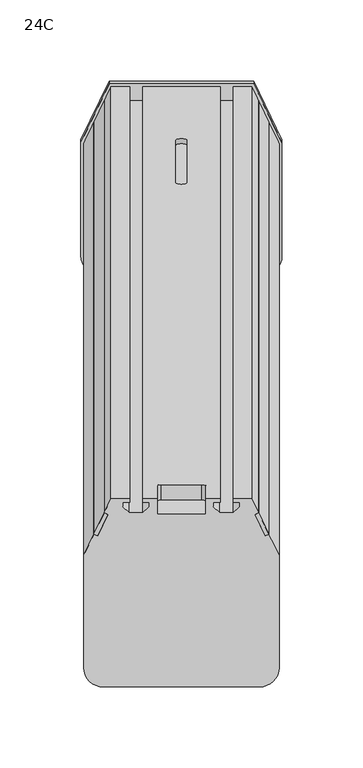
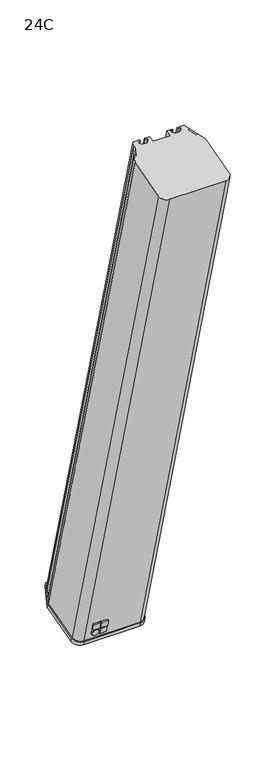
"""IFC4 building model written with IfcOpenShell, lengths in millimetres: proxy geometry, d&b xC-Series 24C Column : 24C."""

import ifcopenshell
import ifcopenshell.guid

model = None  # the IFC model being written
_history = None  # IfcOwnerHistory: only IFC2X3 demands one
_inside = {}  # id of a spatial element -> (the spatial element, [elements in it])
_under = {}  # id of a project, library or spatial element -> (it, [spatial elements below it])
_declared = {}  # id of a project -> (the project, [libraries it declares])
_typed = {}  # id of a type object -> (the type object, [elements of that type])
_made_of = {}  # id of a material, layer set ... -> (it, [elements and type objects made of it])


def new_model(schema):
    """Start an empty IFC model of exactly this schema.

    Asked for "IFC4X3", IfcOpenShell would pick the latest addendum, in which some entities
    have other attributes; the version numbers below select the first issue.
    IFC2X3 requires an IfcOwnerHistory on every rooted entity: one is made here for all.
    """
    global model, _history
    if schema == "IFC4X3":
        model = ifcopenshell.file(schema_version=(4, 3, 0, 0))
    else:
        model = ifcopenshell.file(schema=schema)
    _inside.clear()
    _under.clear()
    _declared.clear()
    _typed.clear()
    _made_of.clear()
    _history = None
    if model.schema == "IFC2X3":
        org = make("IfcOrganization", Name="unknown")
        user = make(
            "IfcPersonAndOrganization",
            ThePerson=make("IfcPerson", FamilyName="unknown"),
            TheOrganization=org,
        )
        app = make(
            "IfcApplication",
            ApplicationDeveloper=org,
            Version="unknown",
            ApplicationFullName="unknown",
            ApplicationIdentifier="unknown",
        )
        _history = make(
            "IfcOwnerHistory",
            OwningUser=user,
            OwningApplication=app,
            ChangeAction="ADDED",
            CreationDate=0,
        )
    return model


def make(cls, **values):
    """One entity of the class cls with the attributes given. An attribute that is None is left unset."""
    return model.create_entity(
        cls, **{name: value for name, value in values.items() if value is not None}
    )


def rooted(cls, **values):
    """An entity with a GlobalId (a new one), such as an element, a storey or a relation."""
    return make(cls, GlobalId=ifcopenshell.guid.new(), OwnerHistory=_history, **values)


def si_unit(unit_type, name, prefix=None):
    """IfcSIUnit, for example si_unit("LENGTHUNIT", "METRE", prefix="MILLI")."""
    return make("IfcSIUnit", UnitType=unit_type, Prefix=prefix, Name=name)


def assignment(units):
    """IfcUnitAssignment: the units of a project."""
    return None if units is None else make("IfcUnitAssignment", Units=units)


def point(xyz):
    """IfcCartesianPoint."""
    return None if xyz is None else make("IfcCartesianPoint", Coordinates=xyz)


def direction(xyz):
    """IfcDirection."""
    return None if xyz is None else make("IfcDirection", DirectionRatios=xyz)


def frame(location, z_axis=None, x_axis=None):
    """IfcAxis2Placement3D, a coordinate frame: its origin and axes. An axis left out is left unset."""
    return make(
        "IfcAxis2Placement3D",
        Location=point(location),
        Axis=direction(z_axis),
        RefDirection=direction(x_axis),
    )


def frame_2d(location, x_axis=None):
    """IfcAxis2Placement2D, a coordinate frame in the plane: its origin and x axis."""
    return make(
        "IfcAxis2Placement2D", Location=point(location), RefDirection=direction(x_axis)
    )


def origin():
    """The frame at (0, 0, 0) with its axes left unset."""
    return frame((0.0, 0.0, 0.0))


def place(relative_to, where):
    """IfcLocalPlacement: puts the frame where relative to a parent placement (None: the world)."""
    return make(
        "IfcLocalPlacement", PlacementRelTo=relative_to, RelativePlacement=where
    )


def context(
    kind, dimensions, precision=None, world=None, true_north=None, identifier=None
):
    """IfcGeometricRepresentationContext, for example the 3D "Model" context."""
    return make(
        "IfcGeometricRepresentationContext",
        ContextIdentifier=identifier,
        ContextType=kind,
        CoordinateSpaceDimension=dimensions,
        Precision=precision,
        WorldCoordinateSystem=world,
        TrueNorth=true_north,
    )


def project(units=None, contexts=None):
    """IfcProject with its units and contexts."""
    return rooted(
        "IfcProject",
        Name="project",
        RepresentationContexts=contexts,
        UnitsInContext=assignment(units),
    )


def spatial(cls, under=None, at=None, **own):
    """A site, building, storey or space (cls), placed at a placement, below another one or the project."""
    s = rooted(cls, ObjectPlacement=at, **own)
    if under is not None:
        _under.setdefault(under.id(), (under, []))[1].append(s)
    return s


def polyline(points):
    """IfcPolyline through the points."""
    return make("IfcPolyline", Points=[point(p) for p in points])


def circle_curve(where, radius):
    """IfcCircle in the frame where."""
    return make("IfcCircle", Position=where, Radius=radius)


def trimmed(basis, trim1, trim2, sense, master):
    """IfcTrimmedCurve: the piece of a basis curve between two trims."""
    return make(
        "IfcTrimmedCurve",
        BasisCurve=basis,
        Trim1=trim1,
        Trim2=trim2,
        SenseAgreement=sense,
        MasterRepresentation=master,
    )


def segment(curve, same_sense, transition):
    """IfcCompositeCurveSegment."""
    return make(
        "IfcCompositeCurveSegment",
        Transition=transition,
        SameSense=same_sense,
        ParentCurve=curve,
    )


def composite_curve(segments, self_intersect=None):
    """IfcCompositeCurve: segments joined end to end."""
    return make("IfcCompositeCurve", Segments=segments, SelfIntersect=self_intersect)


def outline(outer, holes=None, kind="AREA"):
    """IfcArbitraryClosedProfileDef: a profile drawn as a closed curve; with holes, ...WithVoids."""
    if holes is None:
        return make("IfcArbitraryClosedProfileDef", ProfileType=kind, OuterCurve=outer)
    return make(
        "IfcArbitraryProfileDefWithVoids",
        ProfileType=kind,
        OuterCurve=outer,
        InnerCurves=holes,
    )


def extrude(swept, where, along, depth):
    """IfcExtrudedAreaSolid: the profile swept, set in the frame where, extruded along a direction by depth."""
    return make(
        "IfcExtrudedAreaSolid",
        SweptArea=swept,
        Position=where,
        ExtrudedDirection=direction(along),
        Depth=depth,
    )


def shape(context_of_items, identifier, shape_type, items):
    """IfcShapeRepresentation: the items that make up one representation, for example the "Body"."""
    return make(
        "IfcShapeRepresentation",
        ContextOfItems=context_of_items,
        RepresentationIdentifier=identifier,
        RepresentationType=shape_type,
        Items=items,
    )


def source(mapping_origin, context_of_items, identifier, shape_type, items):
    """IfcRepresentationMap: a shape defined once, which mapped items show again and again."""
    return make(
        "IfcRepresentationMap",
        MappingOrigin=mapping_origin,
        MappedRepresentation=shape(context_of_items, identifier, shape_type, items),
    )


def transform(
    local_origin,
    x_axis=None,
    y_axis=None,
    z_axis=None,
    scale=None,
    scale2=None,
    scale3=None,
    uniform=True,
):
    """IfcCartesianTransformationOperator3D, or its non-uniform kind. x_axis, y_axis, z_axis: its Axis1, 2, 3."""
    if uniform:
        return make(
            "IfcCartesianTransformationOperator3D",
            Axis1=direction(x_axis),
            Axis2=direction(y_axis),
            LocalOrigin=point(local_origin),
            Scale=scale,
            Axis3=direction(z_axis),
        )
    return make(
        "IfcCartesianTransformationOperator3DnonUniform",
        Axis1=direction(x_axis),
        Axis2=direction(y_axis),
        LocalOrigin=point(local_origin),
        Scale=scale,
        Axis3=direction(z_axis),
        Scale2=scale2,
        Scale3=scale3,
    )


def mapped(mapping_source, mapping_target):
    """IfcMappedItem: shows the shape of a source again, moved by a transform."""
    return make(
        "IfcMappedItem", MappingSource=mapping_source, MappingTarget=mapping_target
    )


def made_of(thing, what):
    """Note that an element or type object is made of a material, layer set ...; save() writes the relation."""
    if what is not None:
        _made_of.setdefault(what.id(), (what, []))[1].append(thing)
    return thing


def element(
    cls,
    number,
    at=None,
    inside=None,
    cuts=None,
    type_object=None,
    material=None,
    context=None,
    identifier="Body",
    shape_type=None,
    held_by="IfcProductDefinitionShape",
    body=None,
    shapes=None,
    **own,
):
    """One element of the class cls, such as IfcWall. Its Tag is "e" and its number.

    at: its placement. inside: the storey or other place that contains it. cuts: it is an
    opening in that element (IfcRelVoidsElement). A single representation is given by context,
    identifier, shape_type and body (its items); several are given by shapes. held_by: the class
    of the entity that holds the representations. save() writes the other relations.
    """
    e = rooted(cls, Tag="e%d" % number, ObjectPlacement=at, **own)
    if body is not None:
        shapes = [shape(context, identifier, shape_type, body)]
    if shapes is not None:
        e.Representation = make(held_by, Representations=shapes)
    if inside is not None:
        _inside.setdefault(inside.id(), (inside, []))[1].append(e)
    if cuts is not None:
        rooted(
            "IfcRelVoidsElement", RelatingBuildingElement=cuts, RelatedOpeningElement=e
        )
    if type_object is not None:
        _typed.setdefault(type_object.id(), (type_object, []))[1].append(e)
    return made_of(e, material)


def aggregate(whole, parts):
    """IfcRelAggregates: a whole, such as a stair, and the parts it consists of."""
    return rooted("IfcRelAggregates", RelatingObject=whole, RelatedObjects=parts)


def save(model, path):
    """Write the relations noted so far, then the file.

    IfcRelAggregates (storeys below a building ...), IfcRelContainedInSpatialStructure (elements
    in a storey), IfcRelDefinesByType, IfcRelAssociatesMaterial and IfcRelDeclares: one each for
    every whole, place, type object, material and project.
    """
    for whole, parts in _under.values():
        aggregate(whole, parts)
    for where, things in _inside.values():
        rooted(
            "IfcRelContainedInSpatialStructure",
            RelatedElements=things,
            RelatingStructure=where,
        )
    for kind, things in _typed.values():
        rooted("IfcRelDefinesByType", RelatedObjects=things, RelatingType=kind)
    for what, things in _made_of.values():
        rooted("IfcRelAssociatesMaterial", RelatedObjects=things, RelatingMaterial=what)
    for by, libraries in _declared.values():
        rooted("IfcRelDeclares", RelatingContext=by, RelatedDefinitions=libraries)
    model.write(path)


def plane_surface(at):
    """IfcPlane: the flat surface through the origin of the frame at, square to its z axis."""
    return make("IfcPlane", Position=at)


def cylinder_surface(at, radius):
    """IfcCylindricalSurface: all points at the distance radius from the z axis of the frame at."""
    return make("IfcCylindricalSurface", Position=at, Radius=radius)


def revolved_surface(curve, axis_point, axis_direction):
    """IfcSurfaceOfRevolution: the curve turned about the line through axis_point along axis_direction."""
    return make(
        "IfcSurfaceOfRevolution",
        SweptCurve=make("IfcArbitraryOpenProfileDef", ProfileType="CURVE", Curve=curve),
        AxisPosition=make("IfcAxis1Placement", Location=point(axis_point), Axis=direction(axis_direction)),
    )


def advanced_brep(points, edges, surfaces, faces):
    """IfcAdvancedBrep: a solid bounded by faces that lie on surfaces and meet in shared edges.

    An edge is (start, end): straight between two places in points (the first is 0);
    or (start, end, curve); or (start, end, curve, False) where it runs against its curve.
    A face is (place in surfaces, loops), or (place, loops, False) where it looks against
    its surface's normal. A loop lists edges by number (the first is 1), with a minus sign
    where the edge is run from its end to its start. The first loop is the outer one.
    """
    corners = [point(p) for p in points]
    vertices = [make("IfcVertexPoint", VertexGeometry=c) for c in corners]
    made = []
    for start, end, *more in edges:
        made.append(
            make(
                "IfcEdgeCurve",
                EdgeStart=vertices[start],
                EdgeEnd=vertices[end],
                EdgeGeometry=more[0] if more else make("IfcPolyline", Points=[corners[start], corners[end]]),
                SameSense=more[1] if len(more) > 1 else True,
            )
        )
    hull = []
    for where, loops, *sense in faces:
        bounds = []
        for j, loop in enumerate(loops):
            ring = [make("IfcOrientedEdge", EdgeElement=made[abs(k) - 1], Orientation=k > 0) for k in loop]
            bounds.append(
                make(
                    "IfcFaceOuterBound" if j == 0 else "IfcFaceBound",
                    Bound=make("IfcEdgeLoop", EdgeList=ring),
                    Orientation=True,
                )
            )
        hull.append(make("IfcAdvancedFace", Bounds=bounds, FaceSurface=surfaces[where], SameSense=sense[0] if sense else True))
    return make("IfcAdvancedBrep", Outer=make("IfcClosedShell", CfsFaces=hull))


def proxy_24c_25db1443(model_context):
    return source(origin(), model_context, "Body", "SolidModel", [
        extrude(outline(polyline([(-2.6999999, 0.0), (-2.6999999, -2.4999999), (-17.6861683, -2.5), (-17.6861684, 0.0), (-2.6999999, 0.0)])), frame((44.4204589, 178.383665, -462.593398), z_axis=(0.0, -0.2588190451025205, 0.9659258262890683), x_axis=(-0.4226182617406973, 0.8754260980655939, 0.23456971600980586)), (0.0, 0.0, 1.0), 986.0),
        extrude(outline(polyline([(35.8102678, 82.5855356), (26.1773443, 94.0656066), (28.0924555, 95.6725756), (37.7253788, 84.1925046), (35.8102678, 82.5855356)])), frame((44.4204589, 178.383665, -462.593398), z_axis=(0.0, -0.2588190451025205, 0.9659258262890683), x_axis=(-0.4226182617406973, 0.8754260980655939, 0.23456971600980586)), (0.0, 0.0, 1.0), 986.0),
        advanced_brep(
        [(-32.05, -69.4007582, 491.7952798), (-43.601115, -69.4007582, 491.7952798), (-47.8272976, -78.1550192, 489.4495827), (-45.5615282, -79.1755639, 489.1761285), (-51.8949566, -92.2948468, 485.6608273), (-54.1607261, -91.2743021, 485.9342814), (-60.5, -104.4056936, 482.4157357), (-60.5, -173.9256513, 463.7879191), (-48.212132, -185.7948203, 460.6075849), (48.212132, -185.7948203, 460.6075849), (60.5, -173.9256513, 463.7879191), (60.5, -104.4056936, 482.4157357), (54.1607261, -91.2743021, 485.9342814), (51.8949566, -92.2948468, 485.6608273), (45.5615282, -79.1755639, 489.1761285), (47.8272976, -78.1550192, 489.4495827), (43.601115, -69.4007582, 491.7952798), (32.05, -69.4007582, 491.7952798), (32.05, -71.5257958, 491.2258777), (36.2500003, -71.5257958, 491.2258777), (36.2500003, -74.1864047, 490.5129697), (32.2044662, -78.0940906, 489.4659084), (23.7999989, -78.0940906, 489.4659084), (19.7499997, -74.1820918, 490.5141254), (19.7499997, -71.5257958, 491.2258777), (23.95, -71.5257958, 491.2258777), (23.95, -69.4007582, 491.7952798), (15.0, -69.4007582, 491.7952798), (15.0, -79.0600165, 489.2070894), (-15.0, -79.0600165, 489.2070894), (-15.0, -69.4007582, 491.7952798), (-23.95, -69.4007582, 491.7952798), (-23.95, -71.5257958, 491.2258777), (-19.7499997, -71.5257958, 491.2258777), (-19.7499997, -74.1820918, 490.5141254), (-23.7999989, -78.0940906, 489.4659084), (-32.2044662, -78.0940906, 489.4659084), (-36.2500003, -74.1864047, 490.5129697), (-36.2500003, -71.5257958, 491.2258777), (-32.05, -71.5257958, 491.2258777), (-32.05, 185.7948203, -460.6075849), (-32.05, 183.6697827, -461.176987), (-36.2500003, 183.6697827, -461.176987), (-36.2500003, 181.0091737, -461.889895), (-32.2044662, 177.1014878, -462.9369563), (-23.7999989, 177.1014878, -462.9369563), (-19.7499997, 181.0134867, -461.8887394), (-19.7499997, 183.6697827, -461.176987), (-23.95, 183.6697827, -461.176987), (-23.95, 185.7948203, -460.6075849), (23.95, 185.7948203, -460.6075849), (23.95, 183.6697827, -461.176987), (19.7499997, 183.6697827, -461.176987), (19.7499997, 181.0134867, -461.8887394), (23.7999989, 177.1014878, -462.9369563), (32.2044662, 177.1014878, -462.9369563), (36.2500003, 181.0091737, -461.889895), (36.2500003, 183.6697827, -461.176987), (32.05, 183.6697827, -461.176987), (32.05, 185.7948203, -460.6075849), (43.601115, 185.7948203, -460.6075849), (47.8272976, 177.0405593, -462.9532821), (45.5615282, 176.0200146, -463.2267362), (51.8949566, 162.9007316, -466.7420375), (54.1607261, 163.9212764, -466.4685833), (60.5, 150.7898849, -469.9871291), (60.5, 81.2699272, -488.6149456), (48.212132, 69.4007582, -491.7952798), (-48.212132, 69.4007582, -491.7952798), (-60.5, 81.2699272, -488.6149456), (-60.5, 150.7898849, -469.9871291), (-54.1607261, 163.9212764, -466.4685833), (-51.8949566, 162.9007316, -466.7420375), (-45.5615282, 176.0200146, -463.2267362), (-47.8272976, 177.0405593, -462.9532821), (-43.601115, 185.7948203, -460.6075849), (-15.0, -61.2479583, 461.3686163), (-12.5, -60.6009107, 458.9538017), (12.5, -60.6009107, 458.9538017), (15.0, -61.2479583, 461.3686163), (-3.375, 126.3958494, -238.9276078), (-3.375, 152.6659825, -336.9690791), (3.375, 152.6659825, -336.9690791), (3.375, 126.3958494, -238.9276078), (15.0, -70.9072165, 458.7804258), (12.5, -70.2601689, 456.3656113), (-12.5, -70.2601689, 456.3656113), (-15.0, -70.9072165, 458.7804258), (-3.375, 149.5267236, -337.810241), (-3.375, 123.2565905, -239.7687697), (3.375, 123.2565905, -239.7687697), (3.375, 149.5267236, -337.810241)],
        [
            (0, 1),
            (1, 2),
            (2, 3),
            (3, 4),
            (4, 5),
            (5, 6),
            (6, 7),
            (7, 8, circle_curve(frame((-48.212132, -173.9256513, 463.7879191), z_axis=(0.0, -0.2588190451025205, 0.9659258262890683), x_axis=(-1.0, 0.0, 0.0)), 12.287868)),
            (8, 9),
            (9, 10, circle_curve(frame((48.212132, -173.9256513, 463.7879191), z_axis=(0.0, -0.2588190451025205, 0.9659258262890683), x_axis=(-1.0, 0.0, 0.0)), 12.287868)),
            (10, 11),
            (11, 12),
            (12, 13),
            (13, 14),
            (14, 15),
            (15, 16),
            (16, 17),
            (17, 18),
            (18, 19),
            (19, 20),
            (20, 21),
            (21, 22),
            (22, 23),
            (23, 24),
            (24, 25),
            (25, 26),
            (26, 27),
            (27, 28),
            (28, 29),
            (29, 30),
            (30, 31),
            (31, 32),
            (32, 33),
            (33, 34),
            (34, 35),
            (35, 36),
            (36, 37),
            (37, 38),
            (38, 39),
            (39, 0),
            (40, 41),
            (41, 42),
            (42, 43),
            (43, 44),
            (44, 45),
            (45, 46),
            (46, 47),
            (47, 48),
            (48, 49),
            (49, 50),
            (50, 51),
            (51, 52),
            (52, 53),
            (53, 54),
            (54, 55),
            (55, 56),
            (56, 57),
            (57, 58),
            (58, 59),
            (59, 60),
            (60, 61),
            (61, 62),
            (62, 63),
            (63, 64),
            (64, 65),
            (65, 66),
            (66, 67, circle_curve(frame((48.212132, 81.2699272, -488.6149456), z_axis=(0.0, 0.2588190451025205, -0.9659258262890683), x_axis=(-1.0, 0.0, 0.0)), 12.287868)),
            (67, 68),
            (68, 69, circle_curve(frame((-48.212132, 81.2699272, -488.6149456), z_axis=(0.0, 0.2588190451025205, -0.9659258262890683), x_axis=(-1.0, 0.0, 0.0)), 12.287868)),
            (69, 70),
            (70, 71),
            (71, 72),
            (72, 73),
            (73, 74),
            (74, 75),
            (75, 40),
            (0, 40),
            (75, 1),
            (6, 70),
            (69, 7),
            (68, 8),
            (67, 9),
            (66, 10),
            (65, 11),
            (64, 12),
            (16, 60),
            (59, 17),
            (58, 18),
            (57, 19),
            (56, 20),
            (55, 21),
            (54, 22),
            (53, 23),
            (52, 24),
            (51, 25),
            (50, 26),
            (49, 31),
            (30, 76),
            (76, 77, circle_curve(frame((-12.5, -61.2479583, 461.3686163), z_axis=(0.0, -0.9659258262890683, -0.2588190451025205), x_axis=(-1.0, 0.0, 0.0)), 2.5)),
            (77, 78),
            (78, 79, circle_curve(frame((12.5, -61.2479583, 461.3686163), z_axis=(0.0, -0.9659258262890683, -0.2588190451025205), x_axis=(-1.0, 0.0, 0.0)), 2.5)),
            (79, 27),
            (80, 81),
            (81, 82, circle_curve(frame((0.0, 152.6659825, -336.9690791), z_axis=(0.0, -0.9659258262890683, -0.2588190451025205), x_axis=(-1.0, 0.0, 0.0)), 3.375)),
            (82, 83),
            (83, 80, circle_curve(frame((0.0, 126.3958494, -238.9276078), z_axis=(0.0, -0.9659258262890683, -0.2588190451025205), x_axis=(-1.0, 0.0, 0.0)), 3.375)),
            (48, 32),
            (47, 33),
            (46, 34),
            (45, 35),
            (44, 36),
            (43, 37),
            (42, 38),
            (41, 39),
            (84, 85, circle_curve(frame((12.5, -70.9072165, 458.7804258), z_axis=(0.0, 0.9659258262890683, 0.2588190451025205), x_axis=(-1.0, 0.0, 0.0)), 2.5)),
            (85, 86),
            (86, 87, circle_curve(frame((-12.5, -70.9072165, 458.7804258), z_axis=(0.0, 0.9659258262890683, 0.2588190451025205), x_axis=(-1.0, 0.0, 0.0)), 2.5)),
            (87, 29),
            (28, 84),
            (84, 79),
            (78, 85),
            (77, 86),
            (76, 87),
            (88, 89),
            (89, 90, circle_curve(frame((0.0, 123.2565905, -239.7687697), z_axis=(0.0, 0.9659258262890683, 0.2588190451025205), x_axis=(-1.0, 0.0, 0.0)), 3.375)),
            (90, 91),
            (91, 88, circle_curve(frame((0.0, 149.5267236, -337.810241), z_axis=(0.0, 0.9659258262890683, 0.2588190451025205), x_axis=(-1.0, 0.0, 0.0)), 3.375)),
            (88, 81),
            (80, 89),
            (83, 90),
            (82, 91),
            (63, 13),
            (62, 14),
            (61, 15),
            (74, 2),
            (73, 3),
            (72, 4),
            (71, 5),
        ],
        [
            plane_surface(frame((-42.0084394, -69.4007582, 491.7952798), z_axis=(0.0, -0.2588190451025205, 0.9659258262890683), x_axis=(-1.0, 0.0, 0.0))),
            plane_surface(frame((-42.0084394, 185.7948203, -460.6075849), z_axis=(0.0, 0.2588190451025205, -0.9659258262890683), x_axis=(1.0, 0.0, 0.0))),
            plane_surface(frame((-32.05, -69.4007582, 491.7952798), z_axis=(0.0, 0.9659258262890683, 0.2588190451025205), x_axis=(0.0, 0.2588190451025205, -0.9659258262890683))),
            plane_surface(frame((-60.5, -104.4056936, 482.4157357), z_axis=(-1.0, 0.0, 0.0), x_axis=(0.0, 0.2588190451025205, -0.9659258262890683))),
            cylinder_surface(frame((-48.212132, 81.2699272, -488.6149456), z_axis=(0.0, -0.2588190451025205, 0.9659258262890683), x_axis=(-1.0, 0.0, 0.0)), 12.287868),
            plane_surface(frame((-48.212132, -185.7948203, 460.6075849), z_axis=(0.0, -0.9659258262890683, -0.2588190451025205), x_axis=(0.0, 0.2588190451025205, -0.9659258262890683))),
            cylinder_surface(frame((48.212132, 81.2699272, -488.6149456), z_axis=(0.0, -0.2588190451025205, 0.9659258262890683), x_axis=(-1.0, 0.0, 0.0)), 12.287868),
            plane_surface(frame((60.5, -173.9256513, 463.7879191), z_axis=(1.0, 0.0, 0.0), x_axis=(0.0, 0.2588190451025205, -0.9659258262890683))),
            plane_surface(frame((60.5, -104.4056936, 482.4157357), z_axis=(0.9063077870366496, 0.40821789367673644, 0.1093816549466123), x_axis=(0.0, 0.2588190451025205, -0.9659258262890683))),
            plane_surface(frame((43.601115, -69.4007582, 491.7952798), z_axis=(0.0, 0.9659258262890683, 0.2588190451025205), x_axis=(0.0, 0.2588190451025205, -0.9659258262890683))),
            plane_surface(frame((32.05, -69.4007582, 491.7952798), z_axis=(-1.0, 0.0, 0.0), x_axis=(0.0, 0.2588190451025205, -0.9659258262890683))),
            plane_surface(frame((32.05, -71.5257958, 491.2258777), z_axis=(0.0, -0.9659258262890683, -0.2588190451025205), x_axis=(0.0, 0.2588190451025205, -0.9659258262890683))),
            plane_surface(frame((36.2500003, -71.5257958, 491.2258777), z_axis=(-1.0, 0.0, 0.0), x_axis=(0.0, 0.2588190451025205, -0.9659258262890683))),
            plane_surface(frame((36.2500003, -74.1864047, 490.5129697), z_axis=(-0.7071067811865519, 0.6830127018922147, 0.18301270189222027), x_axis=(0.0, 0.2588190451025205, -0.9659258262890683))),
            plane_surface(frame((32.2044662, -78.0940906, 489.4659084), z_axis=(0.0, 0.9659258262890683, 0.2588190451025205), x_axis=(0.0, 0.2588190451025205, -0.9659258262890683))),
            plane_surface(frame((23.7999989, -78.0940906, 489.4659084), z_axis=(0.7071067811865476, 0.6830127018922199, 0.18301270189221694), x_axis=(0.0, 0.2588190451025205, -0.9659258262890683))),
            plane_surface(frame((19.7499997, -74.1820918, 490.5141254), z_axis=(1.0, 0.0, 0.0), x_axis=(0.0, 0.2588190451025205, -0.9659258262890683))),
            plane_surface(frame((19.7499997, -71.5257958, 491.2258777), z_axis=(0.0, -0.9659258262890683, -0.2588190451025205), x_axis=(0.0, 0.2588190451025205, -0.9659258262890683))),
            plane_surface(frame((23.95, -71.5257958, 491.2258777), z_axis=(1.0, 0.0, 0.0), x_axis=(0.0, 0.2588190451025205, -0.9659258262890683))),
            plane_surface(frame((23.95, -69.4007582, 491.7952798), z_axis=(0.0, 0.9659258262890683, 0.2588190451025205), x_axis=(0.0, 0.2588190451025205, -0.9659258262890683))),
            plane_surface(frame((-23.95, -69.4007582, 491.7952798), z_axis=(-1.0, 0.0, 0.0), x_axis=(0.0, 0.2588190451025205, -0.9659258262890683))),
            plane_surface(frame((-23.95, -71.5257958, 491.2258777), z_axis=(0.0, -0.9659258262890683, -0.2588190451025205), x_axis=(0.0, 0.2588190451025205, -0.9659258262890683))),
            plane_surface(frame((-19.7499997, -71.5257958, 491.2258777), z_axis=(-1.0, 0.0, 0.0), x_axis=(0.0, 0.2588190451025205, -0.9659258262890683))),
            plane_surface(frame((-19.7499997, -74.1820918, 490.5141254), z_axis=(-0.707106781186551, 0.6830127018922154, 0.18301270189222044), x_axis=(0.0, 0.2588190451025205, -0.9659258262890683))),
            plane_surface(frame((-23.7999989, -78.0940906, 489.4659084), z_axis=(0.0, 0.9659258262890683, 0.2588190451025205), x_axis=(0.0, 0.2588190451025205, -0.9659258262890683))),
            plane_surface(frame((-32.2044662, -78.0940906, 489.4659084), z_axis=(0.7071067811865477, 0.6830127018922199, 0.18301270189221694), x_axis=(0.0, 0.2588190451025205, -0.9659258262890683))),
            plane_surface(frame((-36.2500003, -74.1864047, 490.5129697), z_axis=(1.0, 0.0, 0.0), x_axis=(0.0, 0.2588190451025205, -0.9659258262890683))),
            plane_surface(frame((-36.2500003, -71.5257958, 491.2258777), z_axis=(0.0, -0.9659258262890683, -0.2588190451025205), x_axis=(0.0, 0.2588190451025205, -0.9659258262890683))),
            plane_surface(frame((-32.05, -71.5257958, 491.2258777), z_axis=(1.0, 0.0, 0.0), x_axis=(0.0, 0.2588190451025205, -0.9659258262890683))),
            plane_surface(frame((10.0, -70.9072165, 458.7804258), z_axis=(0.0, 0.9659258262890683, 0.2588190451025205), x_axis=(0.0, 0.2588190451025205, -0.9659258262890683))),
            revolved_surface(polyline([(10.0, -61.247958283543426, 461.36861623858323), (10.0, -70.9072165, 458.7804258)]), (12.5, -70.9072165, 458.7804258), (0.0, 0.9659258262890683, 0.2588190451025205)),
            plane_surface(frame((12.5, -58.9105405, 459.4067351), z_axis=(0.0, -0.2588190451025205, 0.9659258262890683), x_axis=(0.0, -0.9659258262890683, -0.2588190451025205))),
            revolved_surface(polyline([(-15.0, -61.247958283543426, 461.36861623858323), (-15.0, -70.9072165, 458.7804258)]), (-12.5, -70.9072165, 458.7804258), (0.0, 0.9659258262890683, 0.2588190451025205)),
            plane_surface(frame((-15.0, -59.5575881, 461.8215496), z_axis=(1.0, 0.0, 0.0), x_axis=(0.0, -0.9659258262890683, -0.2588190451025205))),
            plane_surface(frame((15.0, -67.710388, 492.2482132), z_axis=(-1.0, 0.0, 0.0), x_axis=(0.0, -0.9659258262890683, -0.2588190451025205))),
            plane_surface(frame((-3.375, 129.3102843, -262.3614626), z_axis=(0.0, 0.9659258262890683, 0.2588190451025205), x_axis=(0.0, 0.2588190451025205, -0.9659258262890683))),
            plane_surface(frame((-3.375, 154.3563527, -336.5161458), z_axis=(1.0, 0.0, 0.0), x_axis=(0.0, -0.9659258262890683, -0.2588190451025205))),
            revolved_surface(polyline([(-3.375, 126.3958494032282, -238.9276078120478), (-3.375, 123.2565905, -239.7687697)]), (0.0, 123.2565905, -239.7687697), (0.0, 0.9659258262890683, 0.2588190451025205)),
            plane_surface(frame((3.375, 128.0862196, -238.4746744), z_axis=(-1.0, 0.0, 0.0), x_axis=(0.0, -0.9659258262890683, -0.2588190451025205))),
            revolved_surface(polyline([(-3.375, 152.6659825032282, -336.9690791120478), (-3.375, 149.5267236, -337.810241)]), (0.0, 149.5267236, -337.810241), (0.0, 0.9659258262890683, 0.2588190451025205)),
            plane_surface(frame((54.1607261, -91.2743021, 485.9342814), z_axis=(-0.4226182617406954, 0.8754260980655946, 0.23456971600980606), x_axis=(0.0, 0.2588190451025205, -0.9659258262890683))),
            plane_surface(frame((51.8949566, -92.2948468, 485.6608273), z_axis=(0.9063077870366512, 0.4082178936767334, 0.10938165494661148), x_axis=(0.0, 0.2588190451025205, -0.9659258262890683))),
            plane_surface(frame((45.5615282, -79.1755639, 489.1761285), z_axis=(0.42261826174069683, -0.8754260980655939, -0.2345697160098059), x_axis=(0.0, 0.2588190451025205, -0.9659258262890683))),
            plane_surface(frame((47.8272976, -78.1550192, 489.4495827), z_axis=(0.9063077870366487, 0.40821789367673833, 0.1093816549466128), x_axis=(0.0, 0.2588190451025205, -0.9659258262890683))),
            plane_surface(frame((-43.601115, -69.4007582, 491.7952798), z_axis=(-0.9063077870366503, 0.4082178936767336, 0.10938165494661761), x_axis=(0.0, 0.2588190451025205, -0.9659258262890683))),
            plane_surface(frame((-47.8272976, -78.1550192, 489.4495827), z_axis=(-0.42261826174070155, -0.8754260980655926, -0.23456971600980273), x_axis=(0.0, 0.2588190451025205, -0.9659258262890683))),
            plane_surface(frame((-45.5615282, -79.1755639, 489.1761285), z_axis=(-0.9063077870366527, 0.40821789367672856, 0.10938165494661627), x_axis=(0.0, 0.2588190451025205, -0.9659258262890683))),
            plane_surface(frame((-51.8949566, -92.2948468, 485.6608273), z_axis=(0.42261826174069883, 0.8754260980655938, 0.23456971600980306), x_axis=(0.0, 0.2588190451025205, -0.9659258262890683))),
            plane_surface(frame((-54.1607261, -91.2743021, 485.9342814), z_axis=(-0.9063077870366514, 0.4082178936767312, 0.10938165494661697), x_axis=(0.0, 0.2588190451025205, -0.9659258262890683))),
        ],
        [
            (0, [[1, 2, 3, 4, 5, 6, 7, 8, 9, 10, 11, 12, 13, 14, 15, 16, 17, 18, 19, 20, 21, 22, 23, 24, 25, 26, 27, 28, 29, 30, 31, 32, 33, 34, 35, 36, 37, 38, 39, 40]]),
            (1, [[41, 42, 43, 44, 45, 46, 47, 48, 49, 50, 51, 52, 53, 54, 55, 56, 57, 58, 59, 60, 61, 62, 63, 64, 65, 66, 67, 68, 69, 70, 71, 72, 73, 74, 75, 76]]),
            (2, [[-1, 77, -76, 78]]),
            (3, [[-7, 79, -70, 80]]),
            (4, [[-8, -80, -69, 81]]),
            (5, [[-9, -81, -68, 82]]),
            (6, [[-10, -82, -67, 83]]),
            (7, [[-11, -83, -66, 84]]),
            (8, [[-12, -84, -65, 85]]),
            (9, [[-17, 86, -60, 87]]),
            (10, [[-18, -87, -59, 88]]),
            (11, [[-19, -88, -58, 89]]),
            (12, [[-20, -89, -57, 90]]),
            (13, [[-21, -90, -56, 91]]),
            (14, [[-22, -91, -55, 92]]),
            (15, [[-23, -92, -54, 93]]),
            (16, [[-24, -93, -53, 94]]),
            (17, [[-25, -94, -52, 95]]),
            (18, [[-26, -95, -51, 96]]),
            (19, [[-50, 97, -31, 98, 99, 100, 101, 102, -27, -96], [103, 104, 105, 106]]),
            (20, [[-32, -97, -49, 107]]),
            (21, [[-33, -107, -48, 108]]),
            (22, [[-34, -108, -47, 109]]),
            (23, [[-35, -109, -46, 110]]),
            (24, [[-36, -110, -45, 111]]),
            (25, [[-37, -111, -44, 112]]),
            (26, [[-38, -112, -43, 113]]),
            (27, [[-39, -113, -42, 114]]),
            (28, [[-40, -114, -41, -77]]),
            (29, [[115, 116, 117, 118, -29, 119]]),
            (30, [[-115, 120, -101, 121]]),
            (31, [[-116, -121, -100, 122]]),
            (32, [[-117, -122, -99, 123]]),
            (33, [[-118, -123, -98, -30]]),
            (34, [[-119, -28, -102, -120]]),
            (35, [[124, 125, 126, 127]]),
            (36, [[-124, 128, -103, 129]]),
            (37, [[-125, -129, -106, 130]]),
            (38, [[-126, -130, -105, 131]]),
            (39, [[-127, -131, -104, -128]]),
            (40, [[-13, -85, -64, 132]]),
            (41, [[-14, -132, -63, 133]]),
            (42, [[-15, -133, -62, 134]]),
            (43, [[-16, -134, -61, -86]]),
            (44, [[-2, -78, -75, 135]]),
            (45, [[-3, -135, -74, 136]]),
            (46, [[-4, -136, -73, 137]]),
            (47, [[-5, -137, -72, 138]]),
            (48, [[-6, -138, -71, -79]]),
        ],
    ),
        extrude(outline(polyline([(0.0, -11.6666666), (0.0, 0.0), (2.5, 0.0), (2.5, -11.6666666), (0.0, -11.6666666)])), frame((-26.5454654, 61.671277, -469.7099439), z_axis=(0.0, -0.2588190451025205, 0.9659258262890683), x_axis=(0.0, -0.9659258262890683, -0.2588190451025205)), (0.0, 0.0, 1.0), 11.6666667),
        extrude(outline(polyline([(0.0, -11.6666667), (0.0, 0.0), (2.5, 0.0), (2.5, -11.6666667), (0.0, -11.6666667)])), frame((-13.212132, 61.671277, -469.7099439), z_axis=(0.0, -0.2588190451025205, 0.9659258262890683), x_axis=(0.0, -0.9659258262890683, -0.2588190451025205)), (0.0, 0.0, 1.0), 11.6666667),
        extrude(outline(polyline([(0.0, -11.6666667), (0.0, 0.0), (2.5, 0.0), (2.5, -11.6666667), (0.0, -11.6666667)])), frame((-13.212132, 65.1221976, -482.5889549), z_axis=(0.0, -0.2588190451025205, 0.9659258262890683), x_axis=(0.0, -0.9659258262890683, -0.2588190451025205)), (0.0, 0.0, 1.0), 11.6666667),
        extrude(outline(composite_curve([segment(trimmed(circle_curve(frame_2d((-0.9849738, -5.8333333)), 5.8333333), [point((-0.9849738, 0.0))], [point((-0.9849738, -11.6666666))], False, "CARTESIAN"), True, "CONTINUOUS"), segment(trimmed(circle_curve(frame_2d((-0.9849738, -5.8333333)), 5.8333333), [point((-0.9849738, -11.6666666))], [point((-0.9849738, 0.0))], False, "CARTESIAN"), True, "CONTINUOUS")], self_intersect=False)), frame((-26.5454654, 60.9426752, -476.6500236), z_axis=(0.0, 0.9659258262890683, 0.2588190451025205), x_axis=(0.0, -0.2588190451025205, 0.9659258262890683)), (0.0, 0.0, 1.0), 2.5),
        extrude(outline(composite_curve([segment(polyline([(235.2985882, 0.0), (252.8326002, -37.6018101), (252.8326002, -109.7500001)]), True, "CONTINUOUS"), segment(trimmed(circle_curve(frame_2d((238.5826002, -109.7500001)), 14.25), [point((252.8326002, -109.7500001))], [point((238.5826002, -124.0))], False, "CARTESIAN"), True, "CONTINUOUS"), segment(polyline([(238.5826002, -124.0), (142.5826002, -124.0)]), True, "CONTINUOUS"), segment(trimmed(circle_curve(frame_2d((142.5826002, -109.7500001)), 14.25), [point((142.5826002, -124.0))], [point((128.3326002, -109.7500001))], False, "CARTESIAN"), True, "CONTINUOUS"), segment(polyline([(128.3326002, -109.7500001), (128.3326002, -37.6018101), (145.8666122, 0.0), (235.2985882, 0.0)]), True, "CONTINUOUS")], self_intersect=False)), frame((-190.5826002, 189.2969238, -466.9161323), z_axis=(0.0, -0.2588190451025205, 0.9659258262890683), x_axis=(1.0, 0.0, 0.0)), (0.0, 0.0, 1.0), 7.0),
    ])


if __name__ == "__main__":
    model = new_model("IFC4")
    model_context = context("Model", 3, world=origin())
    ifc_project = project(units=[si_unit("LENGTHUNIT", "METRE", prefix="MILLI")], contexts=[model_context])
    site = spatial("IfcSite", under=ifc_project)
    building = spatial("IfcBuilding", under=site)
    placement = place(None, origin())
    proxy_24c_shape = proxy_24c_25db1443(model_context)
    element("IfcBuildingElementProxy", 1, Name="d&b xC-Series 24C Column : 24C", ObjectType="d&b xC-Series 24C Column : 24C", at=placement, inside=building, context=model_context, shape_type="MappedRepresentation", body=[
        mapped(proxy_24c_shape, transform((0.0, 0.0, 0.0), x_axis=(1.0, 0.0, 0.0), y_axis=(0.0, 1.0, 0.0), z_axis=(0.0, 0.0, 1.0))),
    ])
    save(model, "model.ifc")
